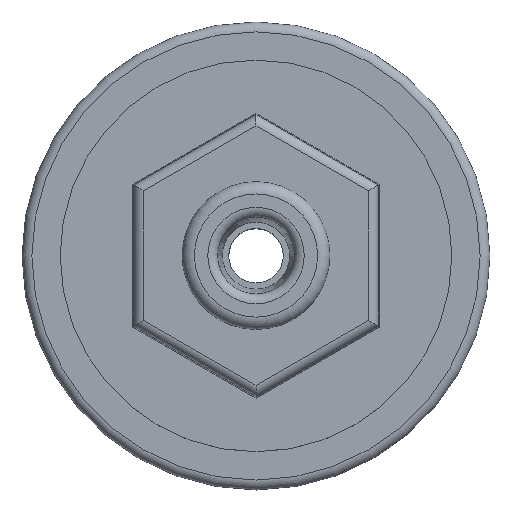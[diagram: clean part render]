
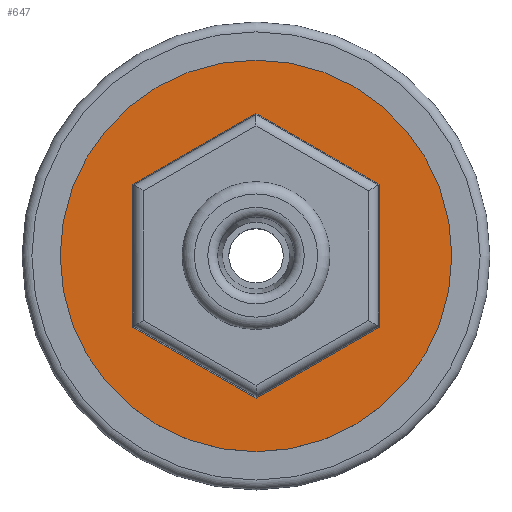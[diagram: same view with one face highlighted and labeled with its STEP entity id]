
A CAD part, top view. The second image highlights one B-rep face of the part: STEP entity #647.
In plain terms, the highlighted planar face has unit normal (0, 0, 1).
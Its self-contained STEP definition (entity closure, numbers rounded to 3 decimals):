
#53=LINE('',#1084,#100);
#57=LINE('',#1091,#104);
#59=LINE('',#1095,#106);
#61=LINE('',#1099,#108);
#64=LINE('',#1128,#111);
#65=LINE('',#1130,#112);
#70=LINE('',#1163,#117);
#100=VECTOR('',#850,10.);
#104=VECTOR('',#858,10.);
#106=VECTOR('',#862,10.);
#108=VECTOR('',#866,10.);
#111=VECTOR('',#901,10.);
#112=VECTOR('',#902,10.);
#117=VECTOR('',#949,10.);
#137=FACE_BOUND('',#242,.T.);
#157=PLANE('',#747);
#196=FACE_OUTER_BOUND('',#241,.T.);
#241=EDGE_LOOP('',(#596));
#242=EDGE_LOOP('',(#597,#598,#599,#600,#601,#602,#603));
#277=CIRCLE('',#746,7.95);
#310=VERTEX_POINT('',#1081);
#311=VERTEX_POINT('',#1083);
#312=VERTEX_POINT('',#1089);
#313=VERTEX_POINT('',#1093);
#314=VERTEX_POINT('',#1097);
#322=VERTEX_POINT('',#1120);
#325=VERTEX_POINT('',#1129);
#333=VERTEX_POINT('',#1165);
#382=EDGE_CURVE('',#311,#310,#53,.T.);
#386=EDGE_CURVE('',#310,#312,#57,.T.);
#388=EDGE_CURVE('',#312,#313,#59,.T.);
#390=EDGE_CURVE('',#313,#314,#61,.T.);
#404=EDGE_CURVE('',#322,#311,#64,.T.);
#405=EDGE_CURVE('',#325,#322,#65,.T.);
#421=EDGE_CURVE('',#314,#325,#70,.T.);
#422=EDGE_CURVE('',#333,#333,#277,.T.);
#596=ORIENTED_EDGE('',*,*,#422,.T.);
#597=ORIENTED_EDGE('',*,*,#386,.T.);
#598=ORIENTED_EDGE('',*,*,#388,.T.);
#599=ORIENTED_EDGE('',*,*,#390,.T.);
#600=ORIENTED_EDGE('',*,*,#421,.T.);
#601=ORIENTED_EDGE('',*,*,#405,.T.);
#602=ORIENTED_EDGE('',*,*,#404,.T.);
#603=ORIENTED_EDGE('',*,*,#382,.T.);
#647=ADVANCED_FACE('',(#196,#137),#157,.T.);
#746=AXIS2_PLACEMENT_3D('',#1166,#952,#953);
#747=AXIS2_PLACEMENT_3D('',#1168,#955,#956);
#850=DIRECTION('',(0.866,-0.5,0.));
#858=DIRECTION('',(0.,-1.,0.));
#862=DIRECTION('',(-0.866,-0.5,0.));
#866=DIRECTION('',(-0.866,0.5,0.));
#901=DIRECTION('',(0.866,0.5,0.));
#902=DIRECTION('',(0.866,0.5,0.));
#949=DIRECTION('',(0.,1.,0.));
#952=DIRECTION('center_axis',(0.,0.,1.));
#953=DIRECTION('ref_axis',(-1.,0.,0.));
#955=DIRECTION('center_axis',(0.,0.,1.));
#956=DIRECTION('ref_axis',(1.,0.,0.));
#1081=CARTESIAN_POINT('',(5.,2.887,3.));
#1083=CARTESIAN_POINT('',(0.,5.774,3.));
#1084=CARTESIAN_POINT('',(3.75,3.608,3.));
#1089=CARTESIAN_POINT('',(5.,-2.887,3.));
#1091=CARTESIAN_POINT('',(5.,-1.443,3.));
#1093=CARTESIAN_POINT('',(0.,-5.774,3.));
#1095=CARTESIAN_POINT('',(1.25,-5.052,3.));
#1097=CARTESIAN_POINT('',(-5.,-2.887,3.));
#1099=CARTESIAN_POINT('',(-3.75,-3.608,3.));
#1120=CARTESIAN_POINT('',(-2.499,4.331,3.));
#1128=CARTESIAN_POINT('',(-1.25,5.052,3.));
#1129=CARTESIAN_POINT('',(-5.,2.887,3.));
#1130=CARTESIAN_POINT('',(-1.25,5.052,3.));
#1163=CARTESIAN_POINT('',(-5.,1.443,3.));
#1165=CARTESIAN_POINT('',(7.95,0.,3.));
#1166=CARTESIAN_POINT('Origin',(0.,0.,3.));
#1168=CARTESIAN_POINT('Origin',(0.,0.,
3.));
